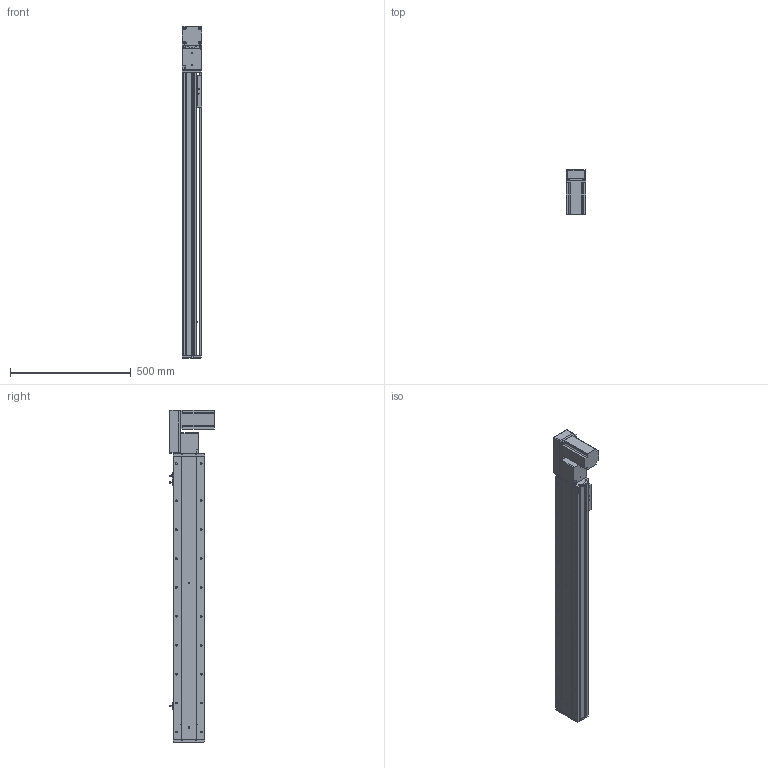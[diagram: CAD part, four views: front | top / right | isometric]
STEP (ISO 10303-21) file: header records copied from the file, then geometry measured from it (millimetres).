
FILE_DESCRIPTION (( 'STEP AP214' ), '1' );
FILE_NAME ('KSD130B-S950-MRB-CM.STEP', '2019-11-15T06:35:53', ( '微软用户' ), ( '微软中国' ), 'SwSTEP 2.0', 'SolidWorks 2014', '' );
FILE_SCHEMA (( 'AUTOMOTIVE_DESIGN' ));
Length unit declared in the file: millimetre
Products named in the file (12): 台达ECMA－C20807AS伺服电机; 130宽模组保护罩上下左右折-同步带; 130宽模组马达安装板连板左右折同步带; 覜茼え100遵圉猾敕; U倰嫖萇EEㄜSX672; 130宽盖板半封闭同步带-950行程; 130宽马达安装板同步带右-改镜向_默认<按加工>; 130宽马达安装板同步带半封闭; 130宽同步带安装座半封闭; 130宽端盖同步带半封闭; 130宽底板半封闭同步带-950行程; KSD130B-S950-MRB-CM
Assembly tree (13 placements, depth 2):
  KSD130B-S950-MRB-CM
    130宽底板半封闭同步带-950行程
    130宽端盖同步带半封闭
    130宽同步带安装座半封闭
    130宽马达安装板同步带半封闭
    130宽马达安装板同步带右-改镜向_默认<按加工>
    130宽盖板半封闭同步带-950行程
    U倰嫖萇EEㄜSX672  x3
    覜茼え100遵圉猾敕
    130宽模组马达安装板连板左右折同步带
    130宽模组保护罩上下左右折-同步带
    台达ECMA－C20807AS伺服电机
Bounding box: 81 x 184.8 x 1377 mm (x, y, z)
Volume: 4854173.2 mm3; surface area: 1320187.1 mm2
Topology: 14 solids, 14 shells, 1517 faces, 4321 edges, 2761 vertices
Faces by surface type: cylinder 724, plane 622, cone 171
Entity records: 49699 total; most frequent: CARTESIAN_POINT 9174, DIRECTION 7571, ORIENTED_EDGE 7286, EDGE_CURVE 3643, AXIS2_PLACEMENT_3D 2758, VERTEX_POINT 2385, LINE 2055, VECTOR 2055
